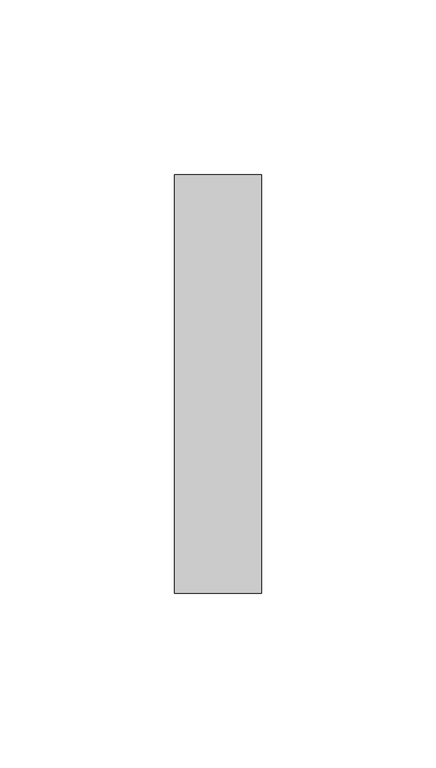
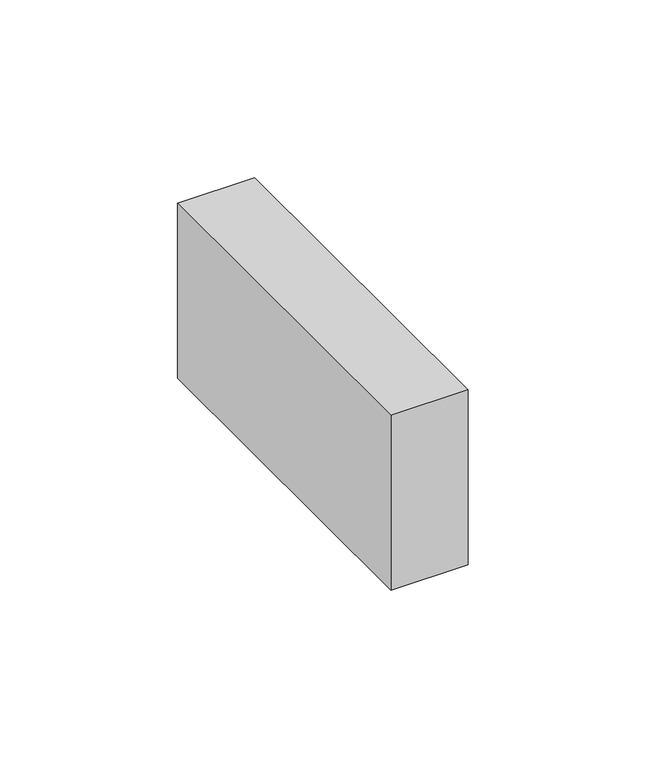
"""IFC4 building model written with IfcOpenShell, lengths in millimetres: duct fitting geometry, КНС_Заглушка_DKC : Стандартное."""

from ifc_helpers import new_model, si_unit, frame, origin, place, context, project, spatial, polyline, outline, extrude, source, transform, mapped, element, save


def duct_fitting_e12757e9(model_context):
    return source(origin(), model_context, "Body", "SweptSolid", [
        extrude(outline(polyline([(0.0, -60.0), (0.0, 60.0), (25.0, 60.0), (25.0, -60.0), (0.0, -60.0)])), frame((0.0, 0.0, -30.0), z_axis=(0.0, 0.0, 1.0), x_axis=(1.0, 0.0, 0.0)), (0.0, 0.0, 1.0), 60.0),
    ])


if __name__ == "__main__":
    model = new_model("IFC4")
    model_context = context("Model", 3, world=origin())
    ifc_project = project(units=[si_unit("LENGTHUNIT", "METRE", prefix="MILLI")], contexts=[model_context])
    site = spatial("IfcSite", under=ifc_project)
    building = spatial("IfcBuilding", under=site)
    placement = place(None, origin())
    duct_fitting_shape = duct_fitting_e12757e9(model_context)
    element("IfcDuctFitting", 1, ObjectType="КНС_Заглушка_DKC : Стандартное", at=placement, inside=building, context=model_context, shape_type="MappedRepresentation", body=[
        mapped(duct_fitting_shape, transform((0.0, 0.0, 0.0), x_axis=(1.0, 0.0, 0.0), y_axis=(0.0, 1.0, 0.0), z_axis=(0.0, 0.0, 1.0))),
    ])
    save(model, "model.ifc")
